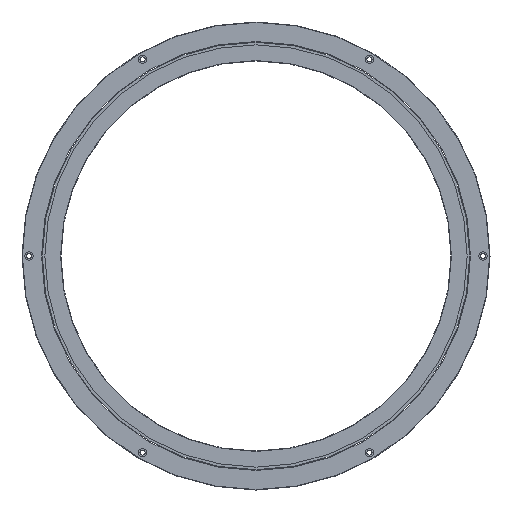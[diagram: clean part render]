
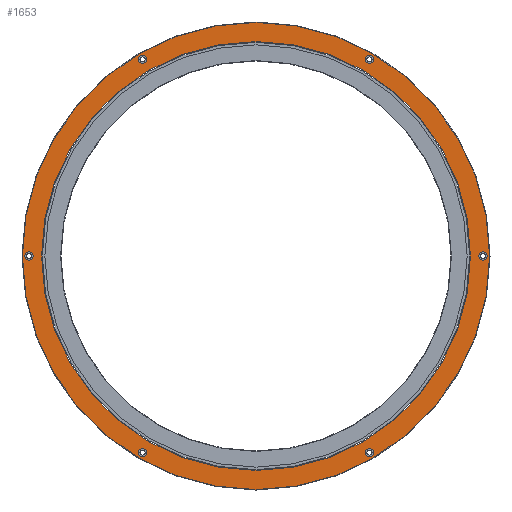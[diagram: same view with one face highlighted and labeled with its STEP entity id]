
A CAD part, front view. The second image highlights one B-rep face of the part: STEP entity #1653.
In plain terms, the highlighted planar face has unit normal (0, -1, 0).
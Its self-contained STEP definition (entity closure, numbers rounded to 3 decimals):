
#371=CARTESIAN_POINT('',(0.,0.,0.));
#372=DIRECTION('',(0.,-1.,0.));
#373=DIRECTION('',(-1.,0.,0.));
#374=AXIS2_PLACEMENT_3D('',#371,#372,#373);
#376=CARTESIAN_POINT('',(0.,0.,0.));
#377=DIRECTION('',(0.,1.,0.));
#378=DIRECTION('',(-1.,0.,0.));
#379=AXIS2_PLACEMENT_3D('',#376,#377,#378);
#381=CARTESIAN_POINT('',(-291.,0.,0.));
#382=DIRECTION('',(0.,1.,0.));
#383=DIRECTION('',(1.,0.,0.));
#384=AXIS2_PLACEMENT_3D('',#381,#382,#383);
#386=CARTESIAN_POINT('',(-291.,0.,0.));
#387=DIRECTION('',(0.,1.,0.));
#388=DIRECTION('',(-1.,0.,0.));
#389=AXIS2_PLACEMENT_3D('',#386,#387,#388);
#391=CARTESIAN_POINT('',(-145.5,0.,252.013));
#392=DIRECTION('',(0.,1.,0.));
#393=DIRECTION('',(0.5,0.,-0.866));
#394=AXIS2_PLACEMENT_3D('',#391,#392,#393);
#396=CARTESIAN_POINT('',(-145.5,0.,252.013));
#397=DIRECTION('',(0.,1.,0.));
#398=DIRECTION('',(-0.5,0.,0.866));
#399=AXIS2_PLACEMENT_3D('',#396,#397,#398);
#401=CARTESIAN_POINT('',(145.5,0.,252.013));
#402=DIRECTION('',(0.,1.,0.));
#403=DIRECTION('',(-0.5,0.,-0.866));
#404=AXIS2_PLACEMENT_3D('',#401,#402,#403);
#406=CARTESIAN_POINT('',(145.5,0.,252.013));
#407=DIRECTION('',(0.,1.,0.));
#408=DIRECTION('',(0.5,0.,0.866));
#409=AXIS2_PLACEMENT_3D('',#406,#407,#408);
#411=CARTESIAN_POINT('',(291.,0.,0.));
#412=DIRECTION('',(0.,1.,0.));
#413=DIRECTION('',(-1.,0.,0.));
#414=AXIS2_PLACEMENT_3D('',#411,#412,#413);
#416=CARTESIAN_POINT('',(291.,0.,0.));
#417=DIRECTION('',(0.,1.,0.));
#418=DIRECTION('',(1.,0.,0.));
#419=AXIS2_PLACEMENT_3D('',#416,#417,#418);
#421=CARTESIAN_POINT('',(145.5,0.,-252.013));
#422=DIRECTION('',(0.,1.,0.));
#423=DIRECTION('',(-0.5,0.,0.866));
#424=AXIS2_PLACEMENT_3D('',#421,#422,#423);
#426=CARTESIAN_POINT('',(145.5,0.,-252.013));
#427=DIRECTION('',(0.,1.,0.));
#428=DIRECTION('',(0.5,0.,-0.866));
#429=AXIS2_PLACEMENT_3D('',#426,#427,#428);
#431=CARTESIAN_POINT('',(-145.5,0.,-252.013));
#432=DIRECTION('',(0.,1.,0.));
#433=DIRECTION('',(0.5,0.,0.866));
#434=AXIS2_PLACEMENT_3D('',#431,#432,#433);
#436=CARTESIAN_POINT('',(-145.5,0.,-252.013));
#437=DIRECTION('',(0.,1.,0.));
#438=DIRECTION('',(-0.5,0.,-0.866));
#439=AXIS2_PLACEMENT_3D('',#436,#437,#438);
#441=CARTESIAN_POINT('',(0.,0.,0.));
#442=DIRECTION('',(0.,1.,0.));
#443=DIRECTION('',(-1.,0.,0.));
#444=AXIS2_PLACEMENT_3D('',#441,#442,#443);
#446=CARTESIAN_POINT('',(0.,0.,0.));
#447=DIRECTION('',(0.,1.,0.));
#448=DIRECTION('',(1.,0.,0.));
#449=AXIS2_PLACEMENT_3D('',#446,#447,#448);
#919=CARTESIAN_POINT('',(-285.75,0.,0.));
#920=VERTEX_POINT('',#919);
#921=CARTESIAN_POINT('',(-296.25,0.,0.));
#922=VERTEX_POINT('',#921);
#931=CARTESIAN_POINT('',(-142.875,0.,247.467));
#932=VERTEX_POINT('',#931);
#933=CARTESIAN_POINT('',(-148.125,0.,256.56));
#934=VERTEX_POINT('',#933);
#943=CARTESIAN_POINT('',(142.875,0.,247.467));
#944=VERTEX_POINT('',#943);
#945=CARTESIAN_POINT('',(148.125,0.,256.56));
#946=VERTEX_POINT('',#945);
#955=CARTESIAN_POINT('',(285.75,0.,0.));
#956=VERTEX_POINT('',#955);
#957=CARTESIAN_POINT('',(296.25,0.,0.));
#958=VERTEX_POINT('',#957);
#976=CARTESIAN_POINT('',(-274.9,0.,0.));
#978=VERTEX_POINT('',#976);
#980=CARTESIAN_POINT('',(274.9,0.,0.));
#982=VERTEX_POINT('',#980);
#995=CARTESIAN_POINT('',(-299.5,0.,0.));
#996=CARTESIAN_POINT('',(299.5,0.,0.));
#997=VERTEX_POINT('',#995);
#998=VERTEX_POINT('',#996);
#1043=CARTESIAN_POINT('',(142.875,0.,-247.467));
#1044=CARTESIAN_POINT('',(148.125,0.,-256.56));
#1045=VERTEX_POINT('',#1043);
#1046=VERTEX_POINT('',#1044);
#1055=CARTESIAN_POINT('',(-142.875,0.,-247.467));
#1056=CARTESIAN_POINT('',(-148.125,0.,-256.56));
#1057=VERTEX_POINT('',#1055);
#1058=VERTEX_POINT('',#1056);
#1604=CARTESIAN_POINT('',(0.,0.,0.));
#1605=DIRECTION('',(0.,1.,0.));
#1606=DIRECTION('',(1.,0.,0.));
#1607=AXIS2_PLACEMENT_3D('',#1604,#1605,#1606);
#1608=PLANE('',#1607);
#1609=ORIENTED_EDGE('',*,*,#1090,.T.);
#1610=ORIENTED_EDGE('',*,*,#1105,.T.);
#1611=EDGE_LOOP('',(#1609,#1610));
#1612=FACE_OUTER_BOUND('',#1611,.F.);
#1614=ORIENTED_EDGE('',*,*,#1613,.F.);
#1616=ORIENTED_EDGE('',*,*,#1615,.F.);
#1617=EDGE_LOOP('',(#1614,#1616));
#1618=FACE_BOUND('',#1617,.F.);
#1620=ORIENTED_EDGE('',*,*,#1619,.F.);
#1622=ORIENTED_EDGE('',*,*,#1621,.F.);
#1623=EDGE_LOOP('',(#1620,#1622));
#1624=FACE_BOUND('',#1623,.F.);
#1626=ORIENTED_EDGE('',*,*,#1625,.F.);
#1628=ORIENTED_EDGE('',*,*,#1627,.F.);
#1629=EDGE_LOOP('',(#1626,#1628));
#1630=FACE_BOUND('',#1629,.F.);
#1632=ORIENTED_EDGE('',*,*,#1631,.F.);
#1634=ORIENTED_EDGE('',*,*,#1633,.F.);
#1635=EDGE_LOOP('',(#1632,#1634));
#1636=FACE_BOUND('',#1635,.F.);
#1638=ORIENTED_EDGE('',*,*,#1637,.F.);
#1640=ORIENTED_EDGE('',*,*,#1639,.F.);
#1641=EDGE_LOOP('',(#1638,#1640));
#1642=FACE_BOUND('',#1641,.F.);
#1644=ORIENTED_EDGE('',*,*,#1643,.F.);
#1646=ORIENTED_EDGE('',*,*,#1645,.F.);
#1647=EDGE_LOOP('',(#1644,#1646));
#1648=FACE_BOUND('',#1647,.F.);
#1649=ORIENTED_EDGE('',*,*,#1599,.T.);
#1650=ORIENTED_EDGE('',*,*,#1583,.F.);
#1651=EDGE_LOOP('',(#1649,#1650));
#1652=FACE_BOUND('',#1651,.F.);
#375=CIRCLE('',#374,274.9);
#380=CIRCLE('',#379,274.9);
#385=CIRCLE('',#384,5.25);
#390=CIRCLE('',#389,5.25);
#395=CIRCLE('',#394,5.25);
#400=CIRCLE('',#399,5.25);
#405=CIRCLE('',#404,5.25);
#410=CIRCLE('',#409,5.25);
#415=CIRCLE('',#414,5.25);
#420=CIRCLE('',#419,5.25);
#425=CIRCLE('',#424,5.25);
#430=CIRCLE('',#429,5.25);
#435=CIRCLE('',#434,5.25);
#440=CIRCLE('',#439,5.25);
#445=CIRCLE('',#444,299.5);
#450=CIRCLE('',#449,299.5);
#1090=EDGE_CURVE('',#997,#998,#445,.T.);
#1105=EDGE_CURVE('',#998,#997,#450,.T.);
#1583=EDGE_CURVE('',#978,#982,#380,.T.);
#1599=EDGE_CURVE('',#978,#982,#375,.T.);
#1613=EDGE_CURVE('',#920,#922,#385,.T.);
#1615=EDGE_CURVE('',#922,#920,#390,.T.);
#1619=EDGE_CURVE('',#932,#934,#395,.T.);
#1621=EDGE_CURVE('',#934,#932,#400,.T.);
#1625=EDGE_CURVE('',#944,#946,#405,.T.);
#1627=EDGE_CURVE('',#946,#944,#410,.T.);
#1631=EDGE_CURVE('',#956,#958,#415,.T.);
#1633=EDGE_CURVE('',#958,#956,#420,.T.);
#1637=EDGE_CURVE('',#1045,#1046,#425,.T.);
#1639=EDGE_CURVE('',#1046,#1045,#430,.T.);
#1643=EDGE_CURVE('',#1057,#1058,#435,.T.);
#1645=EDGE_CURVE('',#1058,#1057,#440,.T.);
#1653=ADVANCED_FACE('',(#1612,#1618,#1624,#1630,#1636,#1642,#1648,#1652),#1608,
.F.);
